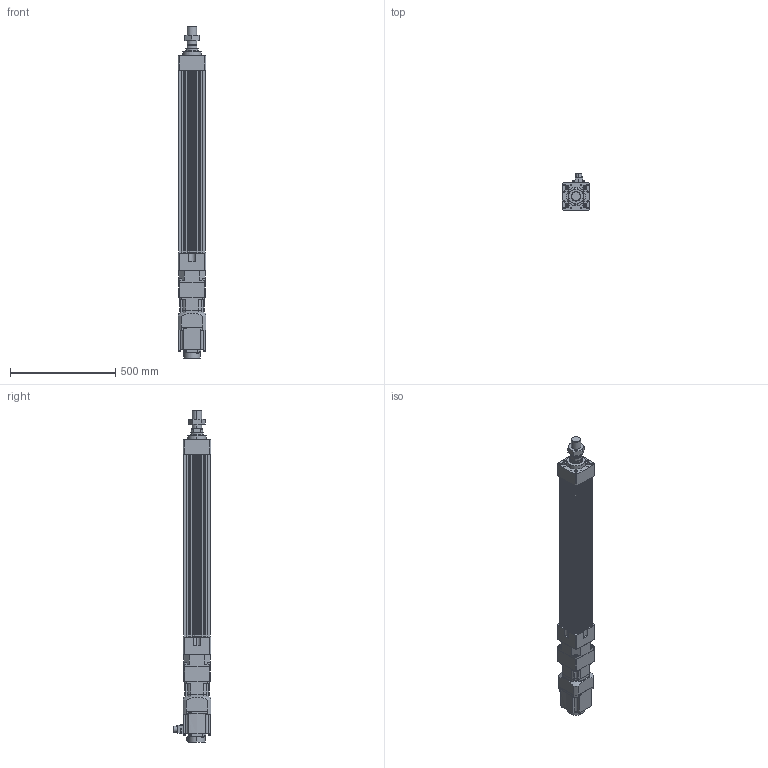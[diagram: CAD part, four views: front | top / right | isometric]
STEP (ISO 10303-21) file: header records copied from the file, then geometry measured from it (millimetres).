
FILE_DESCRIPTION (( 'STEP AP203' ), '1' );
FILE_NAME ('HES130NS(FS)(HS)-S650-W015G00-M.STEP', '2023-01-30T08:26:53', ( 'tms' ), ( '' ), 'SwSTEP 2.0', 'SolidWorks 2013', '' );
FILE_SCHEMA (( 'CONFIG_CONTROL_DESIGN' ));
Length unit declared in the file: millimetre
Products named in the file (8): M45X1.5P; HES130NS(FS)(HS)-S650-W015G00-M; HES130 ROD M ST650; AB115-003[HG-SR152]; HES130-S650-G120; P0401400706; AB1151; HG-SR152
Assembly tree (7 placements, depth 3):
  HES130NS(FS)(HS)-S650-W015G00-M
    HES130-S650-G120
    HES130 ROD M ST650
    M45X1.5P
    AB115-003[HG-SR152]
      AB1151
      P0401400706
    HG-SR152
Bounding box: 130 x 177.49 x 1579.5 mm (x, y, z)
Volume: 12367760.9 mm3; surface area: 1632769.2 mm2
Topology: 4 solids, 15 shells, 1220 faces, 3076 edges, 1983 vertices
Faces by surface type: cylinder 553, plane 551, cone 104, bspline 8, torus 4
Entity records: 38254 total; most frequent: CARTESIAN_POINT 7242, DIRECTION 6653, ORIENTED_EDGE 6060, EDGE_CURVE 3040, AXIS2_PLACEMENT_3D 2462, VERTEX_POINT 1983, LINE 1729, VECTOR 1729
